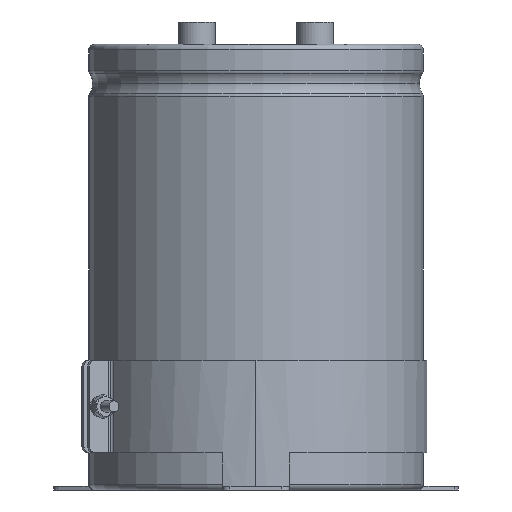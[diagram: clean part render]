
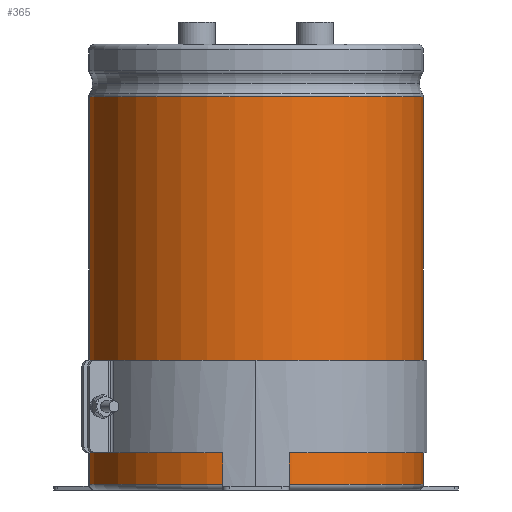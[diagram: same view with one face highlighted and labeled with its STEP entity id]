
A CAD part, left-side view. The second image highlights one B-rep face of the part: STEP entity #365.
In plain terms, the highlighted cylindrical face has radius 45 mm (diameter 90 mm), a partial arc.
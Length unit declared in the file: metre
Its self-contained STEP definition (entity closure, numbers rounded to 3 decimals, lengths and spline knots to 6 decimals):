
#365=ADVANCED_FACE('0:237',(#597),#598,.T.);
#597=FACE_OUTER_BOUND('',#1082,.T.);
#598=CYLINDRICAL_SURFACE('',#1083,0.045);
#1082=EDGE_LOOP('',(#2038,#2039,#2040,#2041));
#1083=AXIS2_PLACEMENT_3D('',#2042,#2043,#2044);
#2038=ORIENTED_EDGE('',*,*,#2995,.T.);
#2039=ORIENTED_EDGE('',*,*,#3004,.T.);
#2040=ORIENTED_EDGE('',*,*,#3006,.T.);
#2041=ORIENTED_EDGE('',*,*,#3007,.F.);
#2042=CARTESIAN_POINT('',(0.0,0.0,0.0));
#2043=DIRECTION('',(-0.0,0.0,1.0));
#2044=DIRECTION('',(0.0,1.0,0.0));
#2995=EDGE_CURVE('',#5626,#5634,#5635,.T.);
#3004=EDGE_CURVE('0:309',#5634,#5645,#5647,.T.);
#3006=EDGE_CURVE('0:312',#5645,#5649,#5650,.T.);
#3007=EDGE_CURVE('0:315',#5626,#5649,#5651,.T.);
#5626=VERTEX_POINT('',#6662);
#5634=VERTEX_POINT('',#6670);
#5635=LINE('',#6671,#6672);
#5645=VERTEX_POINT('',#6683);
#5647=CIRCLE('',#6685,0.045);
#5649=VERTEX_POINT('',#6687);
#5650=LINE('',#6688,#6689);
#5651=CIRCLE('',#6690,0.045);
#6662=CARTESIAN_POINT('',(0.,-0.045,0.0015));
#6670=CARTESIAN_POINT('',(0.,-0.045,0.1059));
#6671=CARTESIAN_POINT('',(0.,-0.045,0.0537));
#6672=VECTOR('',#8209,1.0);
#6683=CARTESIAN_POINT('',(-0.004,0.044822,0.1059));
#6685=AXIS2_PLACEMENT_3D('',#8226,#8227,#8228);
#6687=CARTESIAN_POINT('',(-0.004,0.044822,0.0015));
#6688=CARTESIAN_POINT('',(-0.004,0.044822,0.1059));
#6689=VECTOR('',#8229,0.001);
#6690=AXIS2_PLACEMENT_3D('',#8230,#8231,#8232);
#8209=DIRECTION('',(0.0,0.0,1.0));
#8226=CARTESIAN_POINT('',(0.0,0.0,0.1059));
#8227=DIRECTION('',(0.0,0.0,-1.0));
#8228=DIRECTION('',(0.0,1.0,0.0));
#8229=DIRECTION('',(0.0,0.0,-1.0));
#8230=CARTESIAN_POINT('',(0.0,0.0,0.0015));
#8231=DIRECTION('',(0.0,0.0,-1.0));
#8232=DIRECTION('',(0.0,1.0,0.0));
